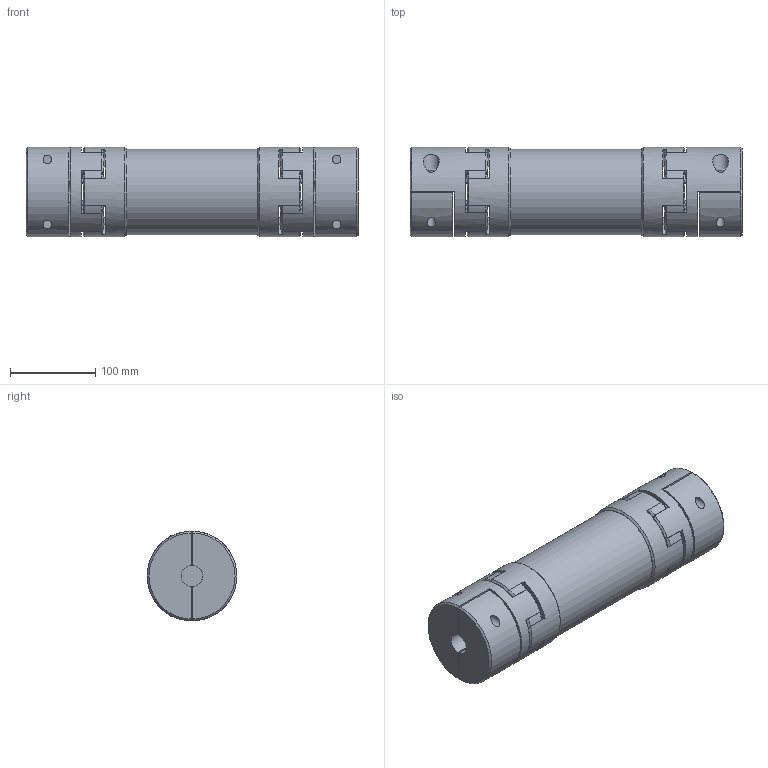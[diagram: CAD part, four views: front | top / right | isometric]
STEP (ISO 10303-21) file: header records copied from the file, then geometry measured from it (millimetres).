
FILE_DESCRIPTION(/* description */ ('Zwischenwellenkupplung AL48'),/* implementation_level */ '2;1');
FILE_NAME(/* name */ 'ALRP48-L285-25-KL-25-KL',/* time_stamp */ '2024-01-05T15:38:11+01:00',/* author */ ('License CC BY-ND 4.0'),/* organization */ ('CADENAS'),/* preprocessor_version */ 'ST-DEVELOPER v20',/* originating_system */ 'Autodesk Inventor 2024',/* authorisation */ ' ');
FILE_SCHEMA (('AUTOMOTIVE_DESIGN { 1 0 10303 214 3 1 1 }'));
Length unit declared in the file: millimetre
Products named in the file (1): Zwischenwellenkupplung AL48
Bounding box: 389 x 105 x 105 mm (x, y, z)
Volume: 2232623.1 mm3; surface area: 358343.2 mm2
Topology: 11 solids, 11 shells, 402 faces, 978 edges, 636 vertices
Faces by surface type: cylinder 178, plane 120, cone 96, torus 8
Full cylindrical faces by diameter (mm): 4.846 x24, 7.754 x4, 10.106 x4, 12 x4, 13 x4, 18 x4, 18.6 x4, 25 x4, 54 x4, 90 x1, 100 x1, 105 x4
Entity records: 12660 total; most frequent: CARTESIAN_POINT 2746, DIRECTION 2170, ORIENTED_EDGE 1956, EDGE_CURVE 978, AXIS2_PLACEMENT_3D 940, VERTEX_POINT 636, CIRCLE 536, EDGE_LOOP 462
